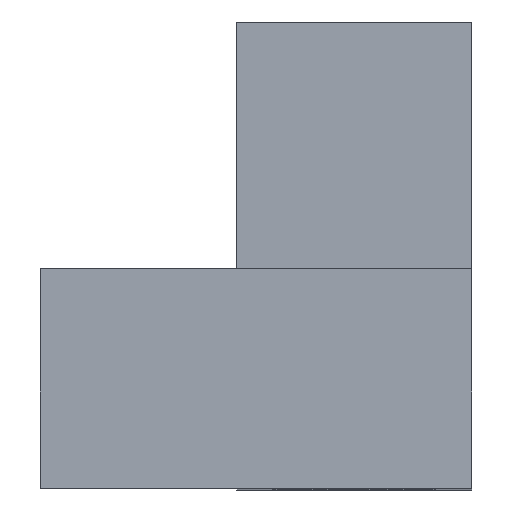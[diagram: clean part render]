
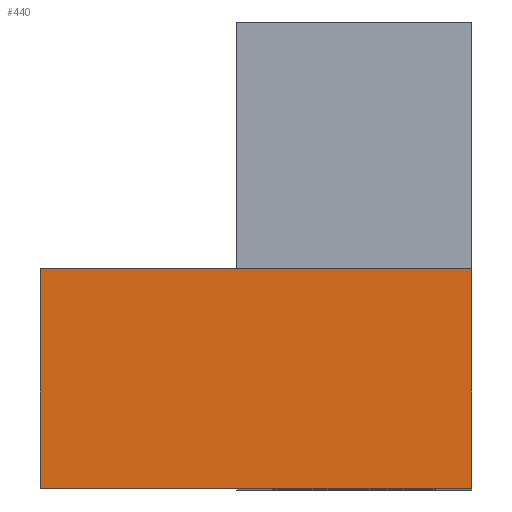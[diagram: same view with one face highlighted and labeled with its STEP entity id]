
A CAD part, top view. The second image highlights one B-rep face of the part: STEP entity #440.
In plain terms, the highlighted planar face has unit normal (0, 0, 1).
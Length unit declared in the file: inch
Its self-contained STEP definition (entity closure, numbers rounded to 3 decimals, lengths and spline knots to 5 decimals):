
#17 = LINE ( 'NONE', #535, #480 ) ;
#38 = DIRECTION ( 'NONE',  ( 1., 0., 0. ) ) ;
#52 = VERTEX_POINT ( 'NONE', #245 ) ;
#186 = VERTEX_POINT ( 'NONE', #210 ) ;
#191 = FACE_OUTER_BOUND ( 'NONE', #280, .T. ) ;
#196 = AXIS2_PLACEMENT_3D ( 'NONE', #344, #502, #244 ) ;
#210 = CARTESIAN_POINT ( 'NONE',  ( -0.52193, 0., 0.97566 ) ) ;
#212 = VECTOR ( 'NONE', #330, 39.37008 ) ;
#219 = LINE ( 'NONE', #518, #230 ) ;
#230 = VECTOR ( 'NONE', #291, 39.37008 ) ;
#244 = DIRECTION ( 'NONE',  ( -1., 0., 0. ) ) ;
#245 = CARTESIAN_POINT ( 'NONE',  ( -0.52193, 0.35, 0.97566 ) ) ;
#280 = EDGE_LOOP ( 'NONE', ( #285, #558, #441, #290 ) ) ;
#281 = CARTESIAN_POINT ( 'NONE',  ( 0.16607, 0.35, 0.97566 ) ) ;
#285 = ORIENTED_EDGE ( 'NONE', *, *, #430, .F. ) ;
#290 = ORIENTED_EDGE ( 'NONE', *, *, #331, .T. ) ;
#291 = DIRECTION ( 'NONE',  ( 0., -1., 0. ) ) ;
#314 = VECTOR ( 'NONE', #38, 39.37008 ) ;
#316 = DIRECTION ( 'NONE',  ( 1., 0., 0. ) ) ;
#330 = DIRECTION ( 'NONE',  ( 0., -1., 0. ) ) ;
#331 = EDGE_CURVE ( 'NONE', #186, #541, #17, .T. ) ;
#334 = CARTESIAN_POINT ( 'NONE',  ( -0.52193, 0.745, 0.97566 ) ) ;
#344 = CARTESIAN_POINT ( 'NONE',  ( -0.52193, 0.745, 0.97566 ) ) ;
#379 = EDGE_CURVE ( 'NONE', #52, #510, #589, .T. ) ;
#380 = LINE ( 'NONE', #334, #212 ) ;
#430 = EDGE_CURVE ( 'NONE', #510, #541, #219, .T. ) ;
#440 = ADVANCED_FACE ( 'NONE', ( #191 ), #478, .F. ) ;
#441 = ORIENTED_EDGE ( 'NONE', *, *, #449, .T. ) ;
#449 = EDGE_CURVE ( 'NONE', #52, #186, #380, .T. ) ;
#478 = PLANE ( 'NONE',  #196 ) ;
#480 = VECTOR ( 'NONE', #316, 39.37008 ) ;
#498 = CARTESIAN_POINT ( 'NONE',  ( 0.16607, 0., 0.97566 ) ) ;
#502 = DIRECTION ( 'NONE',  ( 0., 0., -1. ) ) ;
#510 = VERTEX_POINT ( 'NONE', #281 ) ;
#518 = CARTESIAN_POINT ( 'NONE',  ( 0.16607, 0.745, 0.97566 ) ) ;
#535 = CARTESIAN_POINT ( 'NONE',  ( -0.52193, 0., 0.97566 ) ) ;
#541 = VERTEX_POINT ( 'NONE', #498 ) ;
#558 = ORIENTED_EDGE ( 'NONE', *, *, #379, .F. ) ;
#589 = LINE ( 'NONE', #590, #314 ) ;
#590 = CARTESIAN_POINT ( 'NONE',  ( -0.52193, 0.35, 0.97566 ) ) ;
